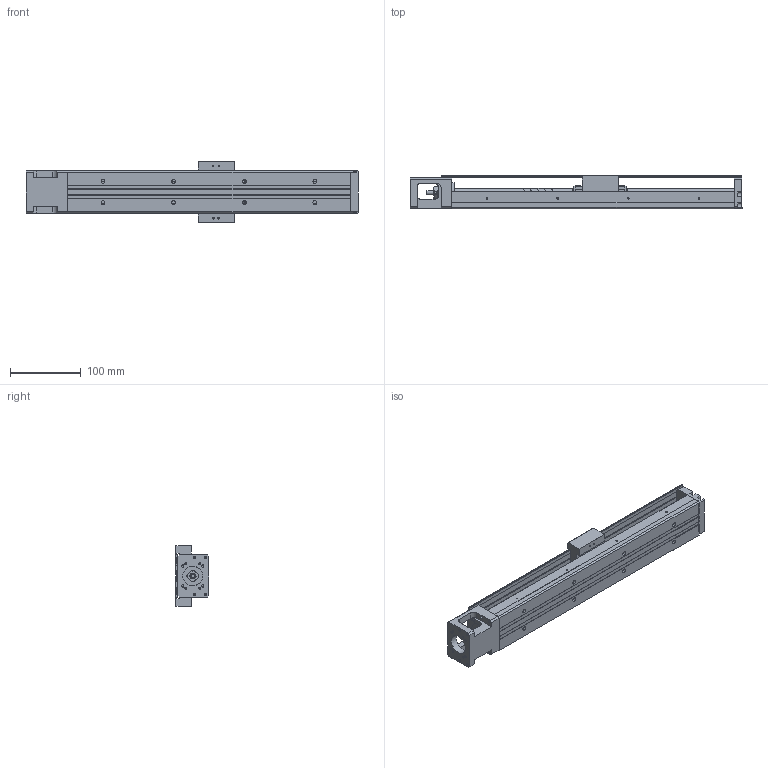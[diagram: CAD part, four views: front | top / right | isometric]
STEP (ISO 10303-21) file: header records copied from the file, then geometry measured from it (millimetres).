
FILE_DESCRIPTION(/* description */ (''),/* implementation_level */ '2;1');
FILE_NAME(/* name */ '33L-400C.stp',/* time_stamp */ '2016-12-20T13:28:54+08:00',/* author */ (''),/* organization */ (''),/* preprocessor_version */ 'ST-DEVELOPER v11',/* originating_system */ 'SIEMENS UGS NX 6.0',/* authorisation */ '');
FILE_SCHEMA (('AUTOMOTIVE_DESIGN { 1 0 10303 214 1 1 1 1 }'));
Length unit declared in the file: millimetre
Products named in the file (1): model4
Bounding box: 470 x 47.95 x 86 mm (x, y, z)
Volume: 633266.8 mm3; surface area: 221194.9 mm2
Topology: 7 solids, 16 shells, 735 faces, 1859 edges, 1230 vertices
Faces by surface type: plane 438, cylinder 210, bspline 31, cone 24, extrusion 21, torus 9, revolution 2
Full cylindrical faces by diameter (mm): 1.6 x5, 1.65 x4, 2.15 x4, 2.42 x4, 2.45 x8, 2.5 x18, 3 x3, 3.2 x4, 3.3 x4, 3.4 x3, 3.5 x10, 3.969 x1, 4 x6, 4.001 x1, 4.135 x4, 4.2 x4, 5.5 x8, 6 x5, 7.6 x1, 8 x5, 9.5 x8, 10.72 x3, 11.8 x2, 12 x6, 12.8 x1, 13 x2, 14 x1, 17.38 x3, 21.5 x1, 22 x2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
Entity records: 37443 total; most frequent: CARTESIAN_POINT 16645, DIRECTION 3338, ORIENTED_EDGE 3218, EDGE_CURVE 1609, AXIS2_PLACEMENT_3D 1178, VERTEX_POINT 1147, EDGE_LOOP 1046, VECTOR 980
